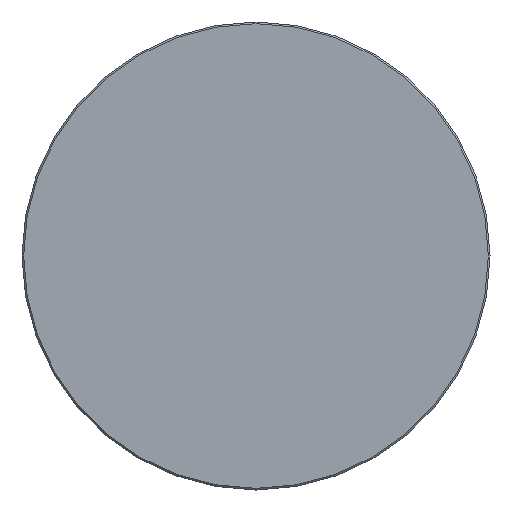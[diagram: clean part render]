
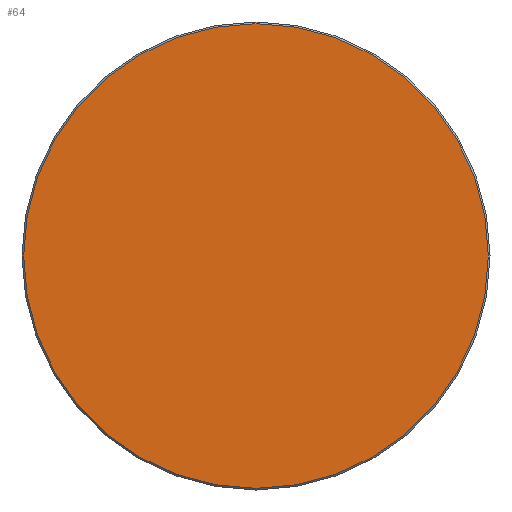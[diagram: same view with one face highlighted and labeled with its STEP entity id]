
A CAD part, left-side view. The second image highlights one B-rep face of the part: STEP entity #64.
In plain terms, the highlighted planar face has unit normal (-1, 0, 0).
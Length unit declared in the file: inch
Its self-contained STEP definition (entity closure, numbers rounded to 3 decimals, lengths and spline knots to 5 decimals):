
#14 = CIRCLE ( 'NONE', #21, 0.5585 ) ;
#15 = AXIS2_PLACEMENT_3D ( 'NONE', #133, #352, #164 ) ;
#21 = AXIS2_PLACEMENT_3D ( 'NONE', #355, #166, #167 ) ;
#44 = VERTEX_POINT ( 'NONE', #56 ) ;
#52 = AXIS2_PLACEMENT_3D ( 'NONE', #257, #262, #58 ) ;
#56 = CARTESIAN_POINT ( 'NONE',  ( 0., -0.5585, 0. ) ) ;
#58 = DIRECTION ( 'NONE',  ( 0., -1., 0. ) ) ;
#64 = ADVANCED_FACE ( 'NONE', ( #82 ), #311, .T. ) ;
#82 = FACE_OUTER_BOUND ( 'NONE', #312, .T. ) ;
#126 = ORIENTED_EDGE ( 'NONE', *, *, #316, .T. ) ;
#133 = CARTESIAN_POINT ( 'NONE',  ( 0., 0., 0. ) ) ;
#164 = DIRECTION ( 'NONE',  ( 0., -1., 0. ) ) ;
#166 = DIRECTION ( 'NONE',  ( -1., 0., 0. ) ) ;
#167 = DIRECTION ( 'NONE',  ( 0., -1., 0. ) ) ;
#173 = CARTESIAN_POINT ( 'NONE',  ( 0., 0.5585, 0. ) ) ;
#232 = ORIENTED_EDGE ( 'NONE', *, *, #340, .T. ) ;
#257 = CARTESIAN_POINT ( 'NONE',  ( 0., 0., 0. ) ) ;
#262 = DIRECTION ( 'NONE',  ( -1., 0., 0. ) ) ;
#298 = CIRCLE ( 'NONE', #52, 0.5585 ) ;
#311 = PLANE ( 'NONE',  #15 ) ;
#312 = EDGE_LOOP ( 'NONE', ( #126, #232 ) ) ;
#316 = EDGE_CURVE ( 'NONE', #338, #44, #298, .T. ) ;
#338 = VERTEX_POINT ( 'NONE', #173 ) ;
#340 = EDGE_CURVE ( 'NONE', #44, #338, #14, .T. ) ;
#352 = DIRECTION ( 'NONE',  ( -1., 0., 0. ) ) ;
#355 = CARTESIAN_POINT ( 'NONE',  ( 0., 0., 0. ) ) ;
